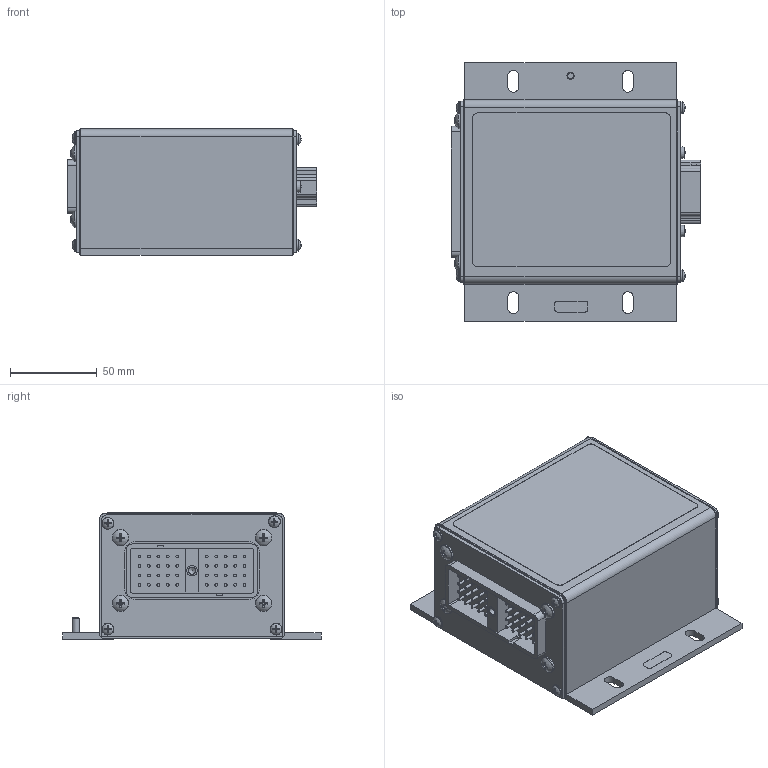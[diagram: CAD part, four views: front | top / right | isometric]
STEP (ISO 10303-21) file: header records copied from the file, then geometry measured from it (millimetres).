
FILE_DESCRIPTION(/* description */ (''),/* implementation_level */ '2;1');
FILE_NAME(/* name */ 'C:\Users\azhao\Documents\20022\MECHANICAL\REV 1\STP\AX180300.stp',/* time_stamp */ '2023-06-26T13:59:44-04:00',/* author */ ('azhao'),/* organization */ (''),/* preprocessor_version */ 'ST-DEVELOPER v17',/* originating_system */ 'Autodesk Inventor 2018',/* authorisation */ '');
FILE_SCHEMA (('AUTOMOTIVE_DESIGN { 1 0 10303 214 3 1 1 }'));
Products named in the file (1): AX180300
Bounding box: 144.2 x 149 x 73.25 mm (x, y, z)
Volume: 293290.7 mm3; surface area: 201307.9 mm2
Topology: 26 solids, 52 shells, 1521 faces, 3815 edges, 2552 vertices
Faces by surface type: plane 857, cylinder 379, cone 148, torus 123, sphere 14
Full cylindrical faces by diameter (mm): 1.575 x156, 2.54 x2, 2.642 x8, 3.302 x5, 3.505 x9, 3.962 x13, 4 x2, 4.064 x7, 4.08 x1, 4.14 x2, 4.826 x6, 5.359 x4, 6.096 x1, 6.502 x4, 6.528 x3, 6.655 x5, 6.858 x8, 8.077 x2, 9.474 x4
Entity records: 48783 total; most frequent: CARTESIAN_POINT 11131, DIRECTION 7757, ORIENTED_EDGE 7574, EDGE_CURVE 3787, AXIS2_PLACEMENT_3D 2912, VERTEX_POINT 2552, LINE 1933, VECTOR 1933
